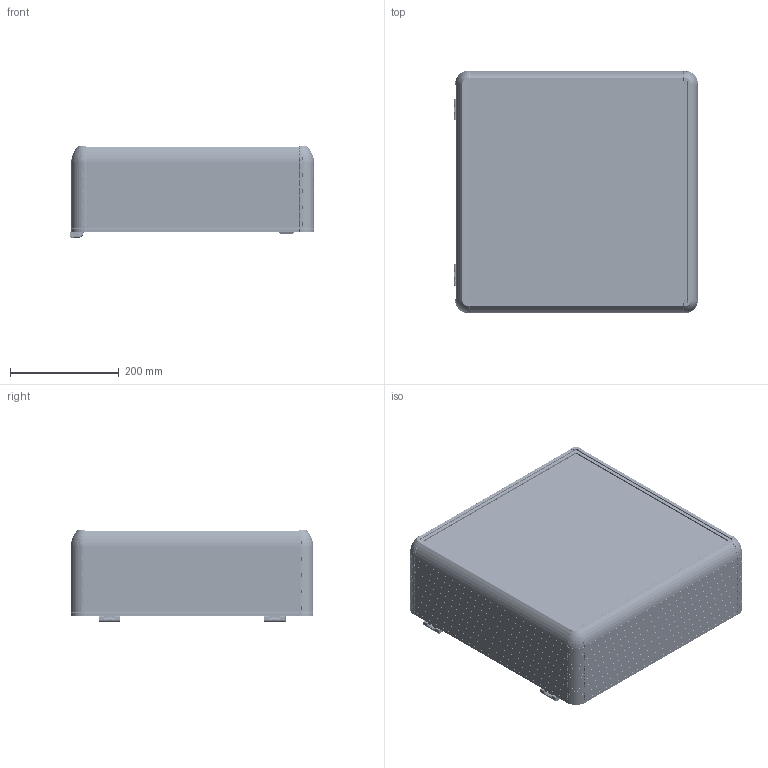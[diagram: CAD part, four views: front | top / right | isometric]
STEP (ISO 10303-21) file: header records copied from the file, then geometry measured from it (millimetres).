
FILE_DESCRIPTION (( 'STEP AP214' ), '1' );
FILE_NAME ('1500-0008.STEP', '2022-09-01T08:19:36', ( '' ), ( '' ), 'SwSTEP 2.0', 'SolidWorks 2022', '' );
FILE_SCHEMA (( 'AUTOMOTIVE_DESIGN' ));
Length unit declared in the file: millimetre
Products named in the file (5): ECO1500-0000; 400X400; 1500-0008; ARKA_KAPAK_400X400; HPECO-150-001_395
Assembly tree (10 placements, depth 2):
  1500-0008
    400X400
    ARKA_KAPAK_400X400
    HPECO-150-001_395  x4
    ECO1500-0000  x4
Bounding box: 449.03 x 447 x 169.15 mm (x, y, z)
Volume: 2452110.5 mm3; surface area: 2060307 mm2
Topology: 38 solids, 88 shells, 10453 faces, 27196 edges, 16478 vertices
Faces by surface type: plane 3445, cylinder 2868, bspline 2772, cone 766, torus 468, sphere 134
Entity records: 199523 total; most frequent: CARTESIAN_POINT 53610, ORIENTED_EDGE 23034, DIRECTION 19577, EDGE_CURVE 11517, AXIS2_PLACEMENT_3D 7286, VERTEX_POINT 7067, VECTOR 5005, LINE 5005
